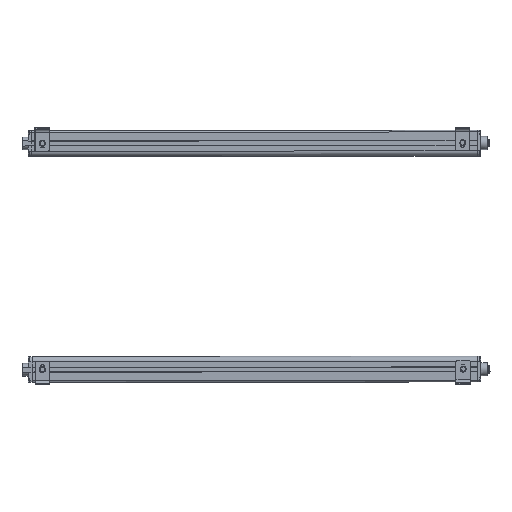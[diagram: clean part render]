
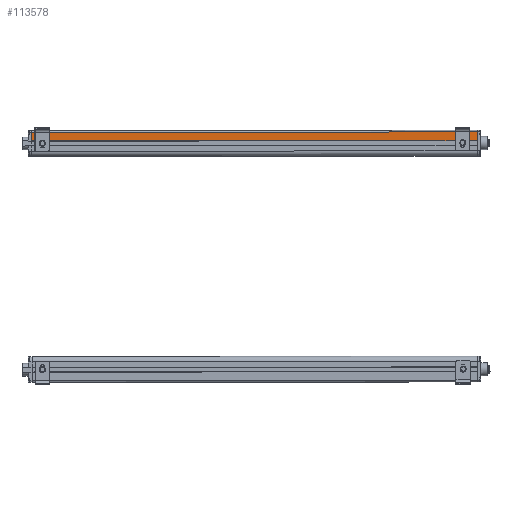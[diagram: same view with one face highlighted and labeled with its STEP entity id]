
A CAD part, left-side view. The second image highlights one B-rep face of the part: STEP entity #113578.
In plain terms, the highlighted planar face has unit normal (-1, 0, 0).
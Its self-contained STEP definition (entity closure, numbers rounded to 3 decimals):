
#1491 = VERTEX_POINT ( 'NONE', #84343 ) ;
#8125 = CARTESIAN_POINT ( 'NONE',  ( -18.91, 885., 22.075 ) ) ;
#8778 = ORIENTED_EDGE ( 'NONE', *, *, #24883, .F. ) ;
#23719 = LINE ( 'NONE', #83104, #30431 ) ;
#24483 = EDGE_CURVE ( 'NONE', #135351, #121037, #85806, .T. ) ;
#24883 = EDGE_CURVE ( 'NONE', #121037, #1491, #83473, .T. ) ;
#24971 = PLANE ( 'NONE',  #138669 ) ;
#29498 = ORIENTED_EDGE ( 'NONE', *, *, #104464, .T. ) ;
#30431 = VECTOR ( 'NONE', #140807, 1000. ) ;
#38164 = DIRECTION ( 'NONE',  ( 0., 0., 1. ) ) ;
#48393 = LINE ( 'NONE', #69293, #111197 ) ;
#54235 = VECTOR ( 'NONE', #85356, 1000. ) ;
#54333 = VERTEX_POINT ( 'NONE', #182258 ) ;
#56887 = CARTESIAN_POINT ( 'NONE',  ( -18.91, 885., 4.825 ) ) ;
#69293 = CARTESIAN_POINT ( 'NONE',  ( -18.91, 0., 4.825 ) ) ;
#70928 = CARTESIAN_POINT ( 'NONE',  ( -18.91, 885., 0. ) ) ;
#74686 = DIRECTION ( 'NONE',  ( 0., -1., 0. ) ) ;
#83104 = CARTESIAN_POINT ( 'NONE',  ( -18.91, 0., 4.825 ) ) ;
#83473 = LINE ( 'NONE', #132385, #171148 ) ;
#84343 = CARTESIAN_POINT ( 'NONE',  ( -18.91, 0., 22.075 ) ) ;
#85356 = DIRECTION ( 'NONE',  ( 0., 0., 1. ) ) ;
#85806 = LINE ( 'NONE', #70928, #54235 ) ;
#89862 = ORIENTED_EDGE ( 'NONE', *, *, #24483, .F. ) ;
#104166 = EDGE_CURVE ( 'NONE', #135351, #54333, #23719, .T. ) ;
#104464 = EDGE_CURVE ( 'NONE', #54333, #1491, #48393, .T. ) ;
#111197 = VECTOR ( 'NONE', #182261, 1000. ) ;
#113578 = ADVANCED_FACE ( 'NONE', ( #136788 ), #24971, .T. ) ;
#113675 = ORIENTED_EDGE ( 'NONE', *, *, #104166, .T. ) ;
#121037 = VERTEX_POINT ( 'NONE', #8125 ) ;
#124101 = DIRECTION ( 'NONE',  ( -1., 0., 0. ) ) ;
#132385 = CARTESIAN_POINT ( 'NONE',  ( -18.91, 0., 22.075 ) ) ;
#135351 = VERTEX_POINT ( 'NONE', #56887 ) ;
#136788 = FACE_OUTER_BOUND ( 'NONE', #180471, .T. ) ;
#138669 = AXIS2_PLACEMENT_3D ( 'NONE', #168052, #124101, #38164 ) ;
#140807 = DIRECTION ( 'NONE',  ( 0., -1., 0. ) ) ;
#168052 = CARTESIAN_POINT ( 'NONE',  ( -18.91, 0., 4.825 ) ) ;
#171148 = VECTOR ( 'NONE', #74686, 1000. ) ;
#180471 = EDGE_LOOP ( 'NONE', ( #113675, #29498, #8778, #89862 ) ) ;
#182258 = CARTESIAN_POINT ( 'NONE',  ( -18.91, 0., 4.825 ) ) ;
#182261 = DIRECTION ( 'NONE',  ( 0., 0., 1. ) ) ;
